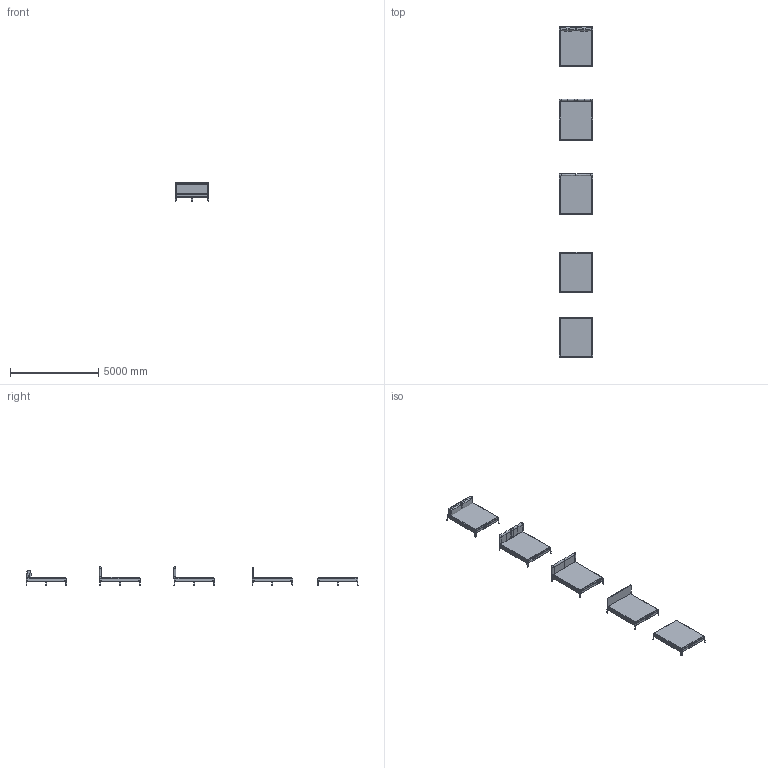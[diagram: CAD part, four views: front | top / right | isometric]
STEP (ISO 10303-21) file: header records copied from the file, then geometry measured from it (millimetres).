
FILE_DESCRIPTION(/* description */ (''),/* implementation_level */ '2;1');
FILE_NAME(/* name */ '180x220',/* time_stamp */ '2025-10-27T19:07:39+01:00',/* author */ (''),/* organization */ (''),/* preprocessor_version */ 'ST-DEVELOPER v16.5',/* originating_system */ 'Rhino 7.38',/* authorisation */ '');
FILE_SCHEMA (('CONFIG_CONTROL_DESIGN'));
Length unit declared in the file: millimetre
Products named in the file (1): Document
Bounding box: 1904.77 x 18827.24 x 1062.09 mm (x, y, z)
Volume: 4793232335.2 mm3; surface area: 77750074 mm2
Topology: 63 solids, 63 shells, 1049 faces, 2346 edges, 1402 vertices
Faces by surface type: plane 548, bspline 378, cylinder 123
Entity records: 147619 total; most frequent: CARTESIAN_POINT 131607, ORIENTED_EDGE 4620, EDGE_CURVE 2310, B_SPLINE_CURVE_WITH_KNOTS 1972, VERTEX_POINT 1402, EDGE_LOOP 1064, ADVANCED_FACE 1049, FACE_OUTER_BOUND 1049
